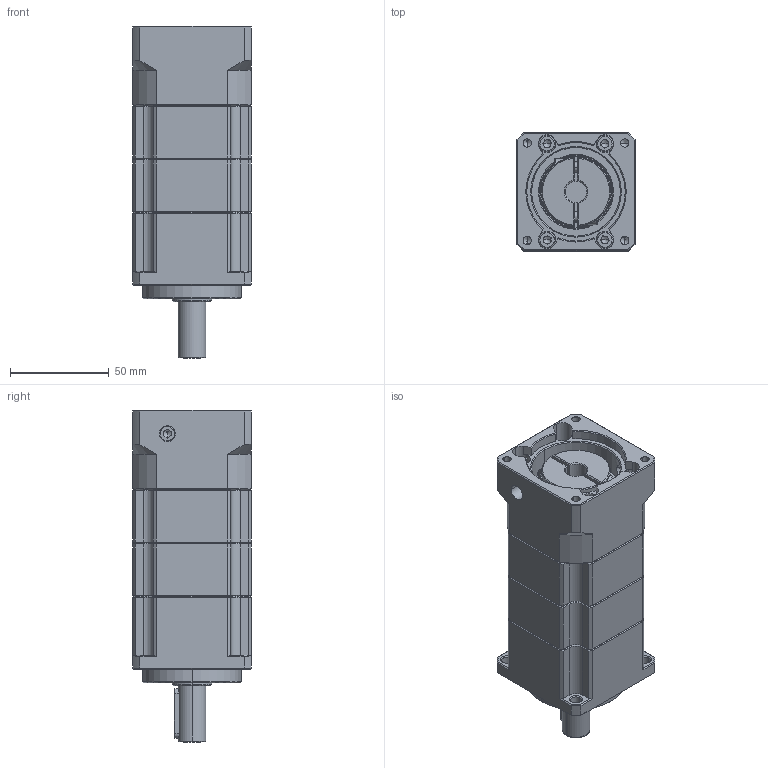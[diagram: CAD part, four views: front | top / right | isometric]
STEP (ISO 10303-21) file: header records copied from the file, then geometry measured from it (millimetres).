
FILE_DESCRIPTION (( 'STEP AP214' ), '1' );
FILE_NAME ('ZPB060-D14-L3-P1-11-50-70-M5.step', '2024-04-23T15:40:04', ( 'Windows 蚚誧' ), ( 'Organization' ), 'SwSTEP 2.0', 'SolidWorks 2016', '' );
FILE_SCHEMA (( 'AUTOMOTIVE_DESIGN' ));
Length unit declared in the file: millimetre
Products named in the file (1): ZPB060-D14-L3-P1-11-50-70-M5
Bounding box: 60 x 60 x 168.5 mm (x, y, z)
Volume: 405430.4 mm3; surface area: 81072.7 mm2
Topology: 14 solids, 22 shells, 2077 faces, 5765 edges, 3704 vertices
Faces by surface type: plane 1087, bspline 373, cylinder 283, cone 196, torus 92, sphere 46
Entity records: 107943 total; most frequent: CARTESIAN_POINT 35543, ORIENTED_EDGE 11224, DIRECTION 8686, EDGE_CURVE 5612, VERTEX_POINT 3635, LINE 3390, VECTOR 3390, AXIS2_PLACEMENT_3D 2648
